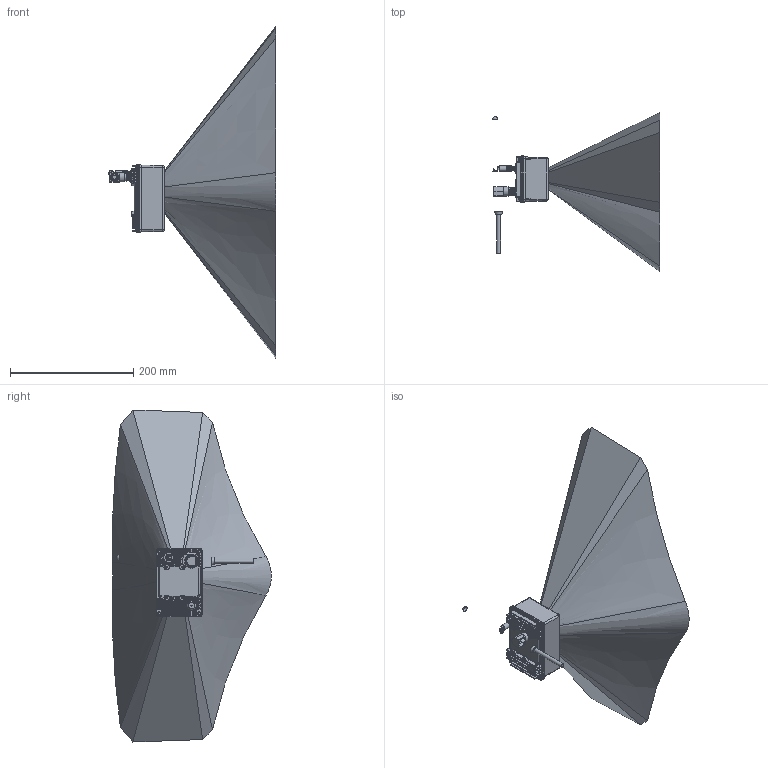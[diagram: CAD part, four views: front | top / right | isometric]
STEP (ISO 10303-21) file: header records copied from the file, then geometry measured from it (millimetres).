
FILE_DESCRIPTION(/* description */ (''),/* implementation_level */ '2;1');
FILE_NAME(/* name */ '10000443_Standard_E.stp',/* time_stamp */ '2023-03-09T09:44:51+01:00',/* author */ ('Menz'),/* organization */ (''),/* preprocessor_version */ 'ST-DEVELOPER v19.2',/* originating_system */ 'Autodesk Inventor 2023',/* authorisation */ '');
FILE_SCHEMA (('AUTOMOTIVE_DESIGN { 1 0 10303 214 3 1 1 }'));
Products named in the file (1): 10000443_simplified
Bounding box: 271.05 x 257.2 x 538 mm (x, y, z)
Volume: 7739269.9 mm3; surface area: 363449.1 mm2
Topology: 13 solids, 13 shells, 2474 faces, 6407 edges, 3909 vertices
Faces by surface type: cylinder 923, bspline 506, plane 479, torus 280, cone 180, sphere 106
Full cylindrical faces by diameter (mm): 0.9 x1, 3 x28, 3.242 x4, 4.7 x1, 5.3 x2, 6 x4, 6.5 x2, 7 x1, 7.3 x1, 8.25 x1, 8.5 x1, 9 x2, 9.8 x1, 10.2 x1, 10.5 x1, 10.517 x5, 10.8 x1, 10.9 x1, 12 x1, 12.113 x1, 13 x1, 13.5 x1, 14.4 x1, 15 x1, 20 x1
Entity records: 137603 total; most frequent: CARTESIAN_POINT 77733, ORIENTED_EDGE 12586, DIRECTION 11381, EDGE_CURVE 6293, AXIS2_PLACEMENT_3D 4655, VERTEX_POINT 3909, CIRCLE 2595, EDGE_LOOP 2580
